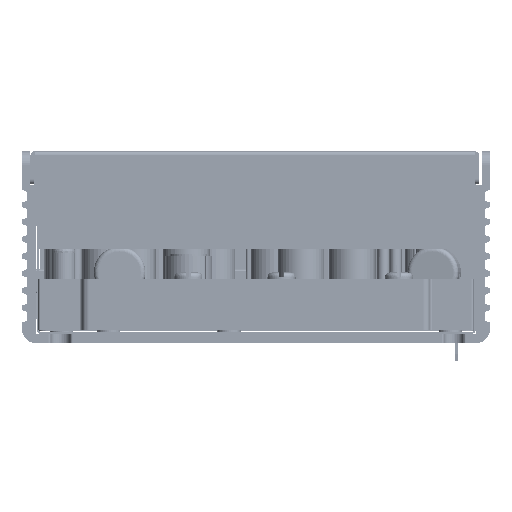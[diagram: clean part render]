
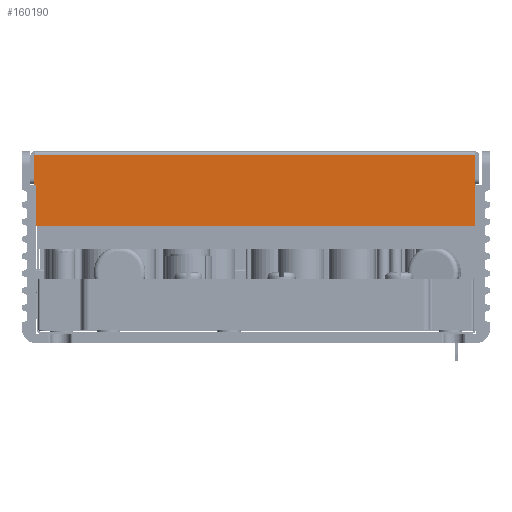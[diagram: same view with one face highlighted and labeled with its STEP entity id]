
A CAD part, front view. The second image highlights one B-rep face of the part: STEP entity #160190.
In plain terms, the highlighted planar face has unit normal (0, -1, 0) as drawn and (0, 1, 0) by its records, which use the part's own axes.
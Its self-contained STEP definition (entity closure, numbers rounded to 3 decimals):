
#159430=CARTESIAN_POINT('',(113.373,260.91,218.1));
#159440=VERTEX_POINT('',#159430);
#159530=CARTESIAN_POINT('',(19.273,260.91,218.1));
#159540=VERTEX_POINT('',#159530);
#159570=CARTESIAN_POINT('',(113.373,260.91,218.1));
#159580=DIRECTION('',(-1.,0.,0.));
#159590=VECTOR('',#159580,1.);
#159600=LINE('',#159570,#159590);
#159610=EDGE_CURVE('',#159440,#159540,#159600,.T.);
#159730=CARTESIAN_POINT('',(19.273,260.91,
217.482));
#159740=DIRECTION('',(0.,1.,0.));
#159750=DIRECTION('',(0.,0.,-1.));
#159760=AXIS2_PLACEMENT_3D('',#159730,#159740,#159750);
#159770=PLANE('',#159760);
#159780=CARTESIAN_POINT('',(19.244,260.91,218.1));
#159790=DIRECTION('',(1.,0.,0.));
#159800=VECTOR('',#159790,1.);
#159810=LINE('',#159780,#159800);
#159820=CARTESIAN_POINT('',(19.244,260.91,218.1));
#159830=VERTEX_POINT('',#159820);
#159840=EDGE_CURVE('',#159830,#159540,#159810,.T.);
#159850=ORIENTED_EDGE('',*,*,#159840,.T.);
#159860=CARTESIAN_POINT('',(19.244,260.91,218.1));
#159870=DIRECTION('',(0.,0.,-1.));
#159880=VECTOR('',#159870,1.);
#159890=LINE('',#159860,#159880);
#159900=CARTESIAN_POINT('',(19.244,260.91,203.));
#159910=VERTEX_POINT('',#159900);
#159920=EDGE_CURVE('',#159830,#159910,#159890,.T.);
#159930=ORIENTED_EDGE('',*,*,#159920,.F.);
#159940=CARTESIAN_POINT('',(19.244,260.91,203.));
#159950=DIRECTION('',(1.,0.,0.));
#159960=VECTOR('',#159950,1.);
#159970=LINE('',#159940,#159960);
#159980=CARTESIAN_POINT('',(113.402,260.91,203.));
#159990=VERTEX_POINT('',#159980);
#160000=EDGE_CURVE('',#159910,#159990,#159970,.T.);
#160010=ORIENTED_EDGE('',*,*,#160000,.F.);
#160020=CARTESIAN_POINT('',(113.402,260.91,203.));
#160030=DIRECTION('',(0.,0.,1.));
#160040=VECTOR('',#160030,1.);
#160050=LINE('',#160020,#160040);
#160060=CARTESIAN_POINT('',(113.402,260.91,218.1));
#160070=VERTEX_POINT('',#160060);
#160080=EDGE_CURVE('',#159990,#160070,#160050,.T.);
#160090=ORIENTED_EDGE('',*,*,#160080,.F.);
#160100=CARTESIAN_POINT('',(113.373,260.91,218.1));
#160110=DIRECTION('',(1.,0.,0.));
#160120=VECTOR('',#160110,1.);
#160130=LINE('',#160100,#160120);
#160140=EDGE_CURVE('',#159440,#160070,#160130,.T.);
#160150=ORIENTED_EDGE('',*,*,#160140,.T.);
#160160=ORIENTED_EDGE('',*,*,#159610,.F.);
#160170=EDGE_LOOP('',(#160160,#160150,#160090,#160010,#159930,#159850));
#160180=FACE_OUTER_BOUND('',#160170,.T.);
#160190=ADVANCED_FACE('',(#160180),#159770,.T.);
